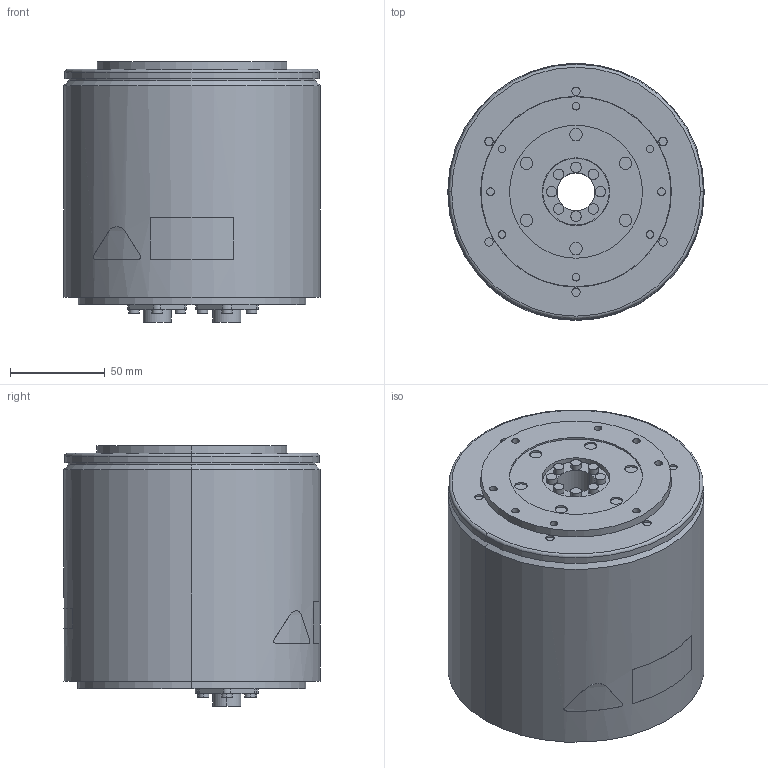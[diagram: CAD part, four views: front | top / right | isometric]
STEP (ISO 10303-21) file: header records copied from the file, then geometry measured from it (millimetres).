
FILE_DESCRIPTION (( 'STEP AP203' ), '1' );
FILE_NAME ('sgm7e_07b_a1_.STEP', '2016-06-02T07:40:19', ( '' ), ( '' ), 'SwSTEP 2.0', 'SolidWorks 2010', '' );
FILE_SCHEMA (( 'CONFIG_CONTROL_DESIGN' ));
Length unit declared in the file: millimetre
Products named in the file (1): sgm7e_07b_a1_
Bounding box: 135 x 135.1 x 137.1 mm (x, y, z)
Volume: 1747400 mm3; surface area: 95853 mm2
Topology: 1 solids, 1 shells, 323 faces, 703 edges, 466 vertices
Faces by surface type: cylinder 180, plane 132, bspline 5, cone 4, torus 2
Entity records: 9686 total; most frequent: CARTESIAN_POINT 2158, DIRECTION 1707, ORIENTED_EDGE 1406, EDGE_CURVE 703, AXIS2_PLACEMENT_3D 701, VERTEX_POINT 466, EDGE_LOOP 409, CIRCLE 382
